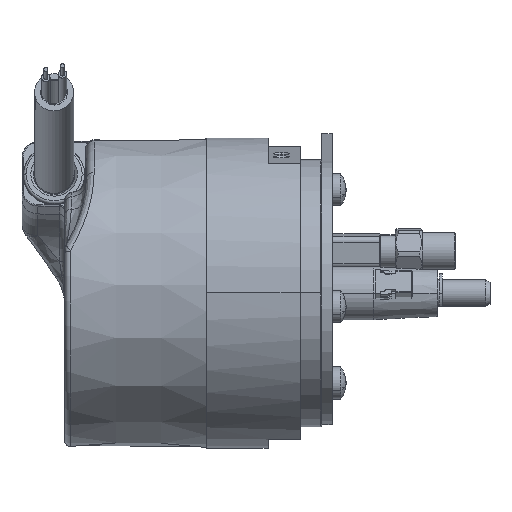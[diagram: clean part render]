
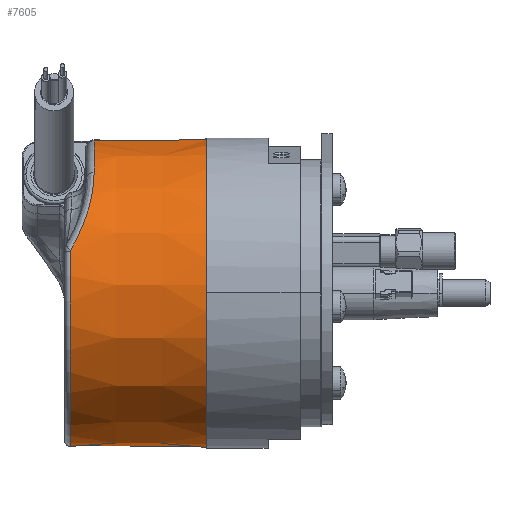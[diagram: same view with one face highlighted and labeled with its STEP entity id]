
A CAD part, top view. The second image highlights one B-rep face of the part: STEP entity #7605.
In plain terms, the highlighted conical face has half-angle 0.5 degrees and reference radius 29 mm.
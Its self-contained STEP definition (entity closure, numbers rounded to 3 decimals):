
#2103 = CARTESIAN_POINT ( 'NONE',  ( -13.513, 22.576, 17.747 ) ) ;
#2104 = CARTESIAN_POINT ( 'NONE',  ( -13.513, 28.502, 3.5 ) ) ;
#2135 = CARTESIAN_POINT ( 'NONE',  ( 7.5, 28.684, 3.522 ) ) ;
#2136 = DIRECTION ( 'NONE',  ( 1., 0.009, 0.001 ) ) ;
#2137 = VECTOR ( 'NONE', #2136, 1000. ) ;
#2138 = CARTESIAN_POINT ( 'NONE',  ( 19., 28.784, 3.534 ) ) ;
#2139 = LINE ( 'NONE', #2138, #2137 ) ;
#2156 = DIRECTION ( 'NONE',  ( 0., -0.993, -0.122 ) ) ;
#2157 = DIRECTION ( 'NONE',  ( 1., 0., 0. ) ) ;
#2158 = CARTESIAN_POINT ( 'NONE',  ( -13.513, 0., 0. ) ) ;
#2159 = AXIS2_PLACEMENT_3D ( 'NONE', #2158, #2157, #2156 ) ;
#2160 = CIRCLE ( 'NONE', #2159, 28.716 ) ;
#2170 = DIRECTION ( 'NONE',  ( 0., 0.993, 0.122 ) ) ;
#2171 = DIRECTION ( 'NONE',  ( 1., 0., 0. ) ) ;
#2172 = CARTESIAN_POINT ( 'NONE',  ( -18.009, 0., 0. ) ) ;
#2173 = AXIS2_PLACEMENT_3D ( 'NONE', #2172, #2171, #2170 ) ;
#2174 = CIRCLE ( 'NONE', #2173, 28.677 ) ;
#2175 = CARTESIAN_POINT ( 'NONE',  ( -18.009, 7.822, 27.59 ) ) ;
#2197 = CARTESIAN_POINT ( 'NONE',  ( 7.5, -28.684, -3.522 ) ) ;
#2742 = CARTESIAN_POINT ( 'NONE',  ( -18.009, -28.463, -3.495 ) ) ;
#2743 = DIRECTION ( 'NONE',  ( 1., -0.009, -0.001 ) ) ;
#2744 = VECTOR ( 'NONE', #2743, 1000. ) ;
#2745 = CARTESIAN_POINT ( 'NONE',  ( 19., -28.784, -3.534 ) ) ;
#2746 = LINE ( 'NONE', #2745, #2744 ) ;
#7605 = ADVANCED_FACE ( 'NONE', ( #13605 ), #13012, .T. ) ;
#7606 = EDGE_LOOP ( 'NONE', ( #7629, #7630, #7626, #7625, #7652, #7653 ) ) ;
#7623 = EDGE_CURVE ( 'NONE', #10670, #10673, #13943, .T. ) ;
#7624 = EDGE_CURVE ( 'NONE', #10654, #10688, #13938, .T. ) ;
#7625 = ORIENTED_EDGE ( 'NONE', *, *, #10687, .T. ) ;
#7626 = ORIENTED_EDGE ( 'NONE', *, *, #7624, .T. ) ;
#7629 = ORIENTED_EDGE ( 'NONE', *, *, #10669, .F. ) ;
#7630 = ORIENTED_EDGE ( 'NONE', *, *, #10663, .T. ) ;
#7652 = ORIENTED_EDGE ( 'NONE', *, *, #10851, .T. ) ;
#7653 = ORIENTED_EDGE ( 'NONE', *, *, #7623, .F. ) ;
#10653 = VERTEX_POINT ( 'NONE', #2104 ) ;
#10654 = VERTEX_POINT ( 'NONE', #2103 ) ;
#10663 = EDGE_CURVE ( 'NONE', #10653, #10654, #2160, .T. ) ;
#10669 = EDGE_CURVE ( 'NONE', #10653, #10670, #2139, .T. ) ;
#10670 = VERTEX_POINT ( 'NONE', #2135 ) ;
#10673 = VERTEX_POINT ( 'NONE', #2197 ) ;
#10687 = EDGE_CURVE ( 'NONE', #10688, #10852, #2174, .T. ) ;
#10688 = VERTEX_POINT ( 'NONE', #2175 ) ;
#10851 = EDGE_CURVE ( 'NONE', #10852, #10673, #2746, .T. ) ;
#10852 = VERTEX_POINT ( 'NONE', #2742 ) ;
#13008 = CARTESIAN_POINT ( 'NONE',  ( 19., 0., 0. ) ) ;
#13012 = CONICAL_SURFACE ( 'NONE', #13013, 29., 0.009 ) ;
#13013 = AXIS2_PLACEMENT_3D ( 'NONE', #13008, #13020, #13019 ) ;
#13019 = DIRECTION ( 'NONE',  ( 0., -0.993, -0.122 ) ) ;
#13020 = DIRECTION ( 'NONE',  ( 1., 0., 0. ) ) ;
#13605 = FACE_OUTER_BOUND ( 'NONE', #7606, .T. ) ;
#13913 = CARTESIAN_POINT ( 'NONE',  ( -18.009, 7.822, 27.59 ) ) ;
#13914 = CARTESIAN_POINT ( 'NONE',  ( -17.619, 8.483, 27.406 ) ) ;
#13915 = CARTESIAN_POINT ( 'NONE',  ( -17.253, 9.148, 27.195 ) ) ;
#13916 = CARTESIAN_POINT ( 'NONE',  ( -16.572, 10.484, 26.715 ) ) ;
#13917 = CARTESIAN_POINT ( 'NONE',  ( -16.255, 11.157, 26.444 ) ) ;
#13918 = CARTESIAN_POINT ( 'NONE',  ( -15.389, 13.156, 25.549 ) ) ;
#13919 = CARTESIAN_POINT ( 'NONE',  ( -14.923, 14.459, 24.842 ) ) ;
#13920 = CARTESIAN_POINT ( 'NONE',  ( -14.374, 16.358, 23.605 ) ) ;
#13921 = CARTESIAN_POINT ( 'NONE',  ( -14.216, 16.981, 23.163 ) ) ;
#13923 = CARTESIAN_POINT ( 'NONE',  ( -14.016, 17.9, 22.453 ) ) ;
#13924 = CARTESIAN_POINT ( 'NONE',  ( -13.955, 18.204, 22.207 ) ) ;
#13925 = CARTESIAN_POINT ( 'NONE',  ( -13.846, 18.801, 21.705 ) ) ;
#13926 = CARTESIAN_POINT ( 'NONE',  ( -13.798, 19.095, 21.448 ) ) ;
#13927 = CARTESIAN_POINT ( 'NONE',  ( -13.587, 20.534, 20.134 ) ) ;
#13928 = CARTESIAN_POINT ( 'NONE',  ( -13.513, 21.6, 18.988 ) ) ;
#13929 = CARTESIAN_POINT ( 'NONE',  ( -13.513, 22.576, 17.747 ) ) ;
#13938 = B_SPLINE_CURVE_WITH_KNOTS ( 'NONE', 3,
 ( #13929, #13928, #13927, #13926, #13925, #13924, #13923, #13921, #13920, #13919, #13918, #13917, #13916, #13915, #13914, #13913 ),
 .UNSPECIFIED., .F., .F.,
 ( 4, 2, 2, 2, 2, 2, 2, 4 ),
 ( 0., 0.005, 0.006, 0.007, 0.009, 0.014, 0.016, 0.019 ),
 .UNSPECIFIED. ) ;
#13939 = DIRECTION ( 'NONE',  ( 0., -0.993, -0.122 ) ) ;
#13940 = DIRECTION ( 'NONE',  ( 1., 0., 0. ) ) ;
#13941 = CARTESIAN_POINT ( 'NONE',  ( 7.5, 0., 0. ) ) ;
#13942 = AXIS2_PLACEMENT_3D ( 'NONE', #13941, #13940, #13939 ) ;
#13943 = CIRCLE ( 'NONE', #13942, 28.9 ) ;
